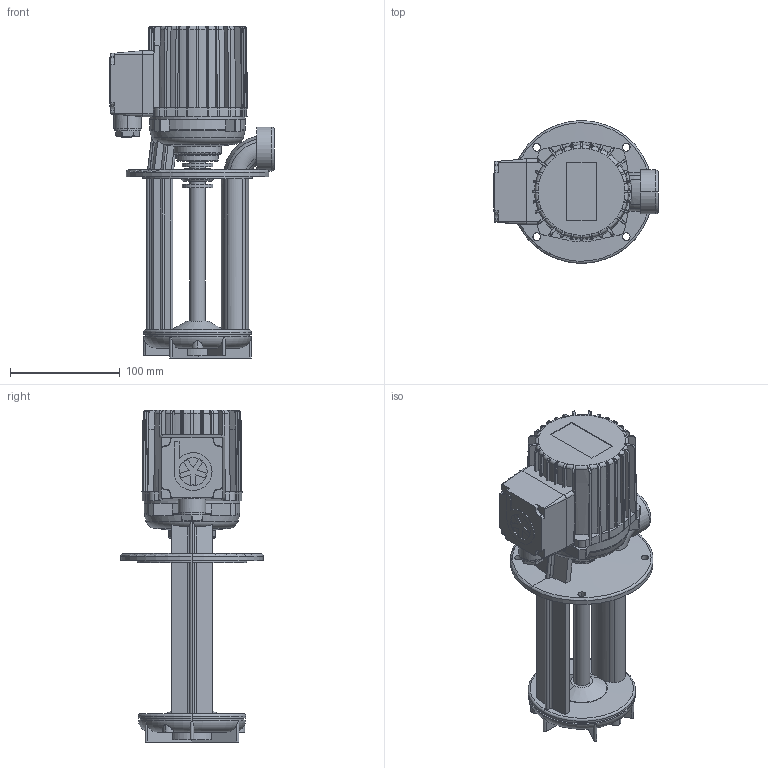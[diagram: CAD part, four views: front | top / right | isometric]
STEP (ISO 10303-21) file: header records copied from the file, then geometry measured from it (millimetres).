
FILE_DESCRIPTION(('no description'),'unknown implementation level');
FILE_NAME('TB25_170_12.stp',' ',('K. H. Brinkmann GmbH & Co. KG'),('CADClick - KiM GmbH - www.kimweb.de'),'unknown preprocess','ACIS','unknown authorization');
FILE_SCHEMA(('automotive_design'));
Length unit declared in the file: millimetre
Products named in the file (3): 1; 2; 3
Bounding box: 150 x 130 x 302 mm (x, y, z)
Volume: 1260540.8 mm3; surface area: 191949.9 mm2
Topology: 3 solids, 3 shells, 620 faces, 1658 edges, 1066 vertices
Faces by surface type: plane 307, cylinder 160, torus 85, cone 68
Entity records: 43186 total; most frequent: CARTESIAN_POINT 9335, STYLED_ITEM 3347, PRESENTATION_STYLE_ASSIGNMENT 3347, COLOUR_RGB 3347, ORIENTED_EDGE 3316, DIRECTION 3109, EDGE_CURVE 1658, CURVE_STYLE 1658
